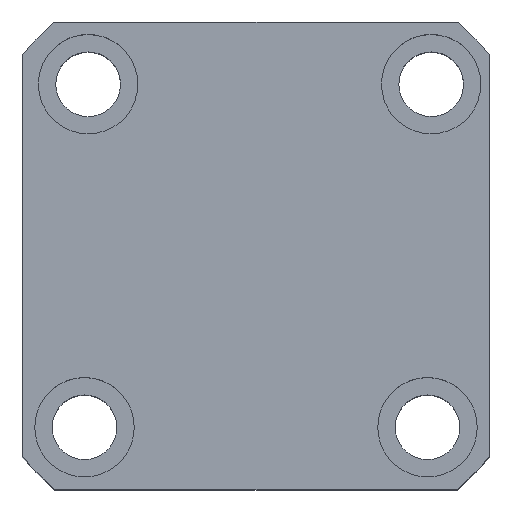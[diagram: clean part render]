
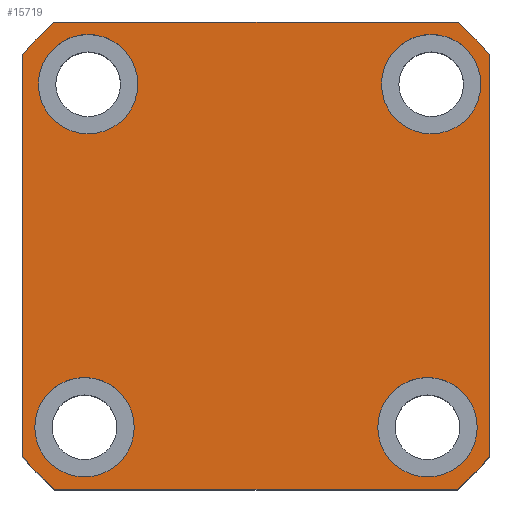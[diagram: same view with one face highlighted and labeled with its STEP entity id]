
A CAD part, top view. The second image highlights one B-rep face of the part: STEP entity #15719.
In plain terms, the highlighted planar face has unit normal (0, 0, 1) as drawn and (0, 0, -1) by its records, which use the part's own axes.
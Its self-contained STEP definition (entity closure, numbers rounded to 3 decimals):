
#298 = CARTESIAN_POINT ( 'NONE',  ( -47., -40.435, 0. ) ) ;
#340 = EDGE_LOOP ( 'NONE', ( #2322, #16772, #14639, #9186, #5658, #2081, #17066, #10344 ) ) ;
#350 = CARTESIAN_POINT ( 'NONE',  ( 0., 0., 0. ) ) ;
#432 = CARTESIAN_POINT ( 'NONE',  ( 24.5, 34.5, 0. ) ) ;
#761 = DIRECTION ( 'NONE',  ( 0., 0., -1. ) ) ;
#837 = AXIS2_PLACEMENT_3D ( 'NONE', #350, #12620, #2152 ) ;
#946 = ORIENTED_EDGE ( 'NONE', *, *, #18139, .F. ) ;
#1342 = CIRCLE ( 'NONE', #11586, 10. ) ;
#1396 = CARTESIAN_POINT ( 'NONE',  ( 47., -40.435, 0. ) ) ;
#1662 = EDGE_CURVE ( 'NONE', #4087, #3692, #7152, .T. ) ;
#1745 = EDGE_CURVE ( 'NONE', #19178, #3309, #15839, .T. ) ;
#1753 = DIRECTION ( 'NONE',  ( 0., -1., 0. ) ) ;
#1809 = CARTESIAN_POINT ( 'NONE',  ( -43.77, -34.5, 0. ) ) ;
#1882 = VERTEX_POINT ( 'NONE', #4508 ) ;
#2081 = ORIENTED_EDGE ( 'NONE', *, *, #6670, .F. ) ;
#2152 = DIRECTION ( 'NONE',  ( 1., 0., 0. ) ) ;
#2254 = CIRCLE ( 'NONE', #12190, 10. ) ;
#2322 = ORIENTED_EDGE ( 'NONE', *, *, #1745, .F. ) ;
#2380 = DIRECTION ( 'NONE',  ( 0., 0., 1. ) ) ;
#2474 = DIRECTION ( 'NONE',  ( -1., 0., 0. ) ) ;
#2562 = ORIENTED_EDGE ( 'NONE', *, *, #2769, .F. ) ;
#2629 = DIRECTION ( 'NONE',  ( 0., 0., -1. ) ) ;
#2671 = CARTESIAN_POINT ( 'NONE',  ( 47., 40.435, 0. ) ) ;
#2748 = CIRCLE ( 'NONE', #4982, 10. ) ;
#2769 = EDGE_CURVE ( 'NONE', #7556, #1882, #16094, .T. ) ;
#2773 = CARTESIAN_POINT ( 'NONE',  ( -33.77, -34.5, 0. ) ) ;
#2851 = AXIS2_PLACEMENT_3D ( 'NONE', #3049, #15236, #4806 ) ;
#3049 = CARTESIAN_POINT ( 'NONE',  ( -34.5, 34.5, 0. ) ) ;
#3086 = CARTESIAN_POINT ( 'NONE',  ( 47., 47., 0. ) ) ;
#3127 = VECTOR ( 'NONE', #15279, 1000. ) ;
#3309 = VERTEX_POINT ( 'NONE', #11559 ) ;
#3692 = VERTEX_POINT ( 'NONE', #12101 ) ;
#3714 = VERTEX_POINT ( 'NONE', #19106 ) ;
#3817 = VECTOR ( 'NONE', #18427, 1000. ) ;
#3938 = AXIS2_PLACEMENT_3D ( 'NONE', #4823, #16997, #6595 ) ;
#3944 = CIRCLE ( 'NONE', #2851, 10. ) ;
#4087 = VERTEX_POINT ( 'NONE', #298 ) ;
#4432 = EDGE_CURVE ( 'NONE', #9051, #20736, #1342, .T. ) ;
#4468 = FACE_BOUND ( 'NONE', #19419, .T. ) ;
#4485 = EDGE_LOOP ( 'NONE', ( #2562, #8847 ) ) ;
#4508 = CARTESIAN_POINT ( 'NONE',  ( -23.77, -34.5, 0. ) ) ;
#4806 = DIRECTION ( 'NONE',  ( -1., 0., 0. ) ) ;
#4823 = CARTESIAN_POINT ( 'NONE',  ( -33.77, -34.5, 0. ) ) ;
#4982 = AXIS2_PLACEMENT_3D ( 'NONE', #18142, #7761, #19849 ) ;
#5195 = PLANE ( 'NONE',  #9365 ) ;
#5468 = AXIS2_PLACEMENT_3D ( 'NONE', #2773, #2629, #2474 ) ;
#5653 = VERTEX_POINT ( 'NONE', #12258 ) ;
#5658 = ORIENTED_EDGE ( 'NONE', *, *, #1662, .F. ) ;
#6303 = CARTESIAN_POINT ( 'NONE',  ( 25.23, -34.5, 0. ) ) ;
#6316 = EDGE_CURVE ( 'NONE', #1882, #7556, #14744, .T. ) ;
#6595 = DIRECTION ( 'NONE',  ( -1., 0., 0. ) ) ;
#6670 = EDGE_CURVE ( 'NONE', #15695, #4087, #16077, .T. ) ;
#6957 = DIRECTION ( 'NONE',  ( 1., 0., 0. ) ) ;
#7134 = CIRCLE ( 'NONE', #13916, 10. ) ;
#7152 = CIRCLE ( 'NONE', #15665, 62. ) ;
#7556 = VERTEX_POINT ( 'NONE', #1809 ) ;
#7560 = DIRECTION ( 'NONE',  ( 1., 0., 0. ) ) ;
#7568 = DIRECTION ( 'NONE',  ( 0., 0., 1. ) ) ;
#7594 = CARTESIAN_POINT ( 'NONE',  ( 0., 0., 0. ) ) ;
#7674 = DIRECTION ( 'NONE',  ( 1., 0., 0. ) ) ;
#7677 = DIRECTION ( 'NONE',  ( 0., 0., 1. ) ) ;
#7701 = CARTESIAN_POINT ( 'NONE',  ( 0., 0., 0. ) ) ;
#7761 = DIRECTION ( 'NONE',  ( 0., 0., -1. ) ) ;
#7791 = EDGE_CURVE ( 'NONE', #12664, #14371, #2748, .T. ) ;
#8047 = ORIENTED_EDGE ( 'NONE', *, *, #22204, .F. ) ;
#8081 = CARTESIAN_POINT ( 'NONE',  ( 34.5, 34.5, 0. ) ) ;
#8474 = EDGE_CURVE ( 'NONE', #14371, #12664, #7134, .T. ) ;
#8535 = CARTESIAN_POINT ( 'NONE',  ( 35.23, -34.5, 0. ) ) ;
#8727 = CARTESIAN_POINT ( 'NONE',  ( -34.5, 34.5, 0. ) ) ;
#8847 = ORIENTED_EDGE ( 'NONE', *, *, #6316, .F. ) ;
#8855 = CARTESIAN_POINT ( 'NONE',  ( 45.23, -34.5, 0. ) ) ;
#8885 = ORIENTED_EDGE ( 'NONE', *, *, #4432, .F. ) ;
#8977 = CARTESIAN_POINT ( 'NONE',  ( -40.435, 47., 0. ) ) ;
#9051 = VERTEX_POINT ( 'NONE', #6303 ) ;
#9084 = EDGE_CURVE ( 'NONE', #3309, #19813, #13098, .T. ) ;
#9186 = ORIENTED_EDGE ( 'NONE', *, *, #17833, .F. ) ;
#9365 = AXIS2_PLACEMENT_3D ( 'NONE', #18982, #17370, #6957 ) ;
#9823 = DIRECTION ( 'NONE',  ( -1., 0., 0. ) ) ;
#9846 = CARTESIAN_POINT ( 'NONE',  ( -47., -47., 0. ) ) ;
#10293 = DIRECTION ( 'NONE',  ( -1., 0., 0. ) ) ;
#10344 = ORIENTED_EDGE ( 'NONE', *, *, #9084, .F. ) ;
#10484 = DIRECTION ( 'NONE',  ( -1., 0., 0. ) ) ;
#11258 = CARTESIAN_POINT ( 'NONE',  ( 35.23, -34.5, 0. ) ) ;
#11442 = VECTOR ( 'NONE', #1753, 1000. ) ;
#11534 = CARTESIAN_POINT ( 'NONE',  ( -47., 47., 0. ) ) ;
#11559 = CARTESIAN_POINT ( 'NONE',  ( 40.435, 47., 0. ) ) ;
#11584 = DIRECTION ( 'NONE',  ( 1., 0., 0. ) ) ;
#11586 = AXIS2_PLACEMENT_3D ( 'NONE', #11258, #761, #13020 ) ;
#12101 = CARTESIAN_POINT ( 'NONE',  ( -40.435, -47., 0. ) ) ;
#12190 = AXIS2_PLACEMENT_3D ( 'NONE', #8535, #20572, #10293 ) ;
#12258 = CARTESIAN_POINT ( 'NONE',  ( -44.5, 34.5, 0. ) ) ;
#12620 = DIRECTION ( 'NONE',  ( 0., 0., 1. ) ) ;
#12643 = LINE ( 'NONE', #9846, #21185 ) ;
#12664 = VERTEX_POINT ( 'NONE', #15859 ) ;
#12691 = CIRCLE ( 'NONE', #837, 62. ) ;
#12834 = CARTESIAN_POINT ( 'NONE',  ( 0., 0., 0. ) ) ;
#13020 = DIRECTION ( 'NONE',  ( -1., 0., 0. ) ) ;
#13091 = VERTEX_POINT ( 'NONE', #13184 ) ;
#13098 = LINE ( 'NONE', #11534, #3817 ) ;
#13184 = CARTESIAN_POINT ( 'NONE',  ( 40.435, -47., 0. ) ) ;
#13204 = FACE_OUTER_BOUND ( 'NONE', #340, .T. ) ;
#13223 = EDGE_LOOP ( 'NONE', ( #19685, #8047 ) ) ;
#13504 = ORIENTED_EDGE ( 'NONE', *, *, #8474, .F. ) ;
#13776 = EDGE_LOOP ( 'NONE', ( #13504, #19174 ) ) ;
#13777 = CIRCLE ( 'NONE', #15327, 10. ) ;
#13812 = CARTESIAN_POINT ( 'NONE',  ( -47., 40.435, 0. ) ) ;
#13916 = AXIS2_PLACEMENT_3D ( 'NONE', #8081, #20134, #9823 ) ;
#13992 = CARTESIAN_POINT ( 'NONE',  ( -47., 47., 0. ) ) ;
#14040 = EDGE_CURVE ( 'NONE', #5653, #3714, #13777, .T. ) ;
#14263 = EDGE_CURVE ( 'NONE', #13091, #19473, #12691, .T. ) ;
#14371 = VERTEX_POINT ( 'NONE', #432 ) ;
#14594 = DIRECTION ( 'NONE',  ( 1., 0., 0. ) ) ;
#14639 = ORIENTED_EDGE ( 'NONE', *, *, #14263, .F. ) ;
#14744 = CIRCLE ( 'NONE', #3938, 10. ) ;
#15236 = DIRECTION ( 'NONE',  ( 0., 0., -1. ) ) ;
#15279 = DIRECTION ( 'NONE',  ( 0., 1., 0. ) ) ;
#15327 = AXIS2_PLACEMENT_3D ( 'NONE', #8727, #20766, #10484 ) ;
#15665 = AXIS2_PLACEMENT_3D ( 'NONE', #7701, #7677, #7674 ) ;
#15695 = VERTEX_POINT ( 'NONE', #13812 ) ;
#15719 = ADVANCED_FACE ( 'NONE', ( #4468, #18333, #22254, #17817, #13204 ), #5195, .F. ) ;
#15839 = CIRCLE ( 'NONE', #19101, 62. ) ;
#15859 = CARTESIAN_POINT ( 'NONE',  ( 44.5, 34.5, 0. ) ) ;
#16077 = LINE ( 'NONE', #13992, #11442 ) ;
#16094 = CIRCLE ( 'NONE', #5468, 10. ) ;
#16772 = ORIENTED_EDGE ( 'NONE', *, *, #21712, .F. ) ;
#16997 = DIRECTION ( 'NONE',  ( 0., 0., -1. ) ) ;
#17066 = ORIENTED_EDGE ( 'NONE', *, *, #17607, .F. ) ;
#17267 = AXIS2_PLACEMENT_3D ( 'NONE', #12834, #2380, #14594 ) ;
#17370 = DIRECTION ( 'NONE',  ( 0., 0., 1. ) ) ;
#17607 = EDGE_CURVE ( 'NONE', #19813, #15695, #22230, .T. ) ;
#17817 = FACE_BOUND ( 'NONE', #13776, .T. ) ;
#17833 = EDGE_CURVE ( 'NONE', #3692, #13091, #12643, .T. ) ;
#18139 = EDGE_CURVE ( 'NONE', #20736, #9051, #2254, .T. ) ;
#18142 = CARTESIAN_POINT ( 'NONE',  ( 34.5, 34.5, 0. ) ) ;
#18333 = FACE_BOUND ( 'NONE', #4485, .T. ) ;
#18427 = DIRECTION ( 'NONE',  ( -1., 0., 0. ) ) ;
#18982 = CARTESIAN_POINT ( 'NONE',  ( 0., 0., 0. ) ) ;
#19101 = AXIS2_PLACEMENT_3D ( 'NONE', #7594, #7568, #7560 ) ;
#19106 = CARTESIAN_POINT ( 'NONE',  ( -24.5, 34.5, 0. ) ) ;
#19174 = ORIENTED_EDGE ( 'NONE', *, *, #7791, .F. ) ;
#19178 = VERTEX_POINT ( 'NONE', #2671 ) ;
#19419 = EDGE_LOOP ( 'NONE', ( #8885, #946 ) ) ;
#19473 = VERTEX_POINT ( 'NONE', #1396 ) ;
#19685 = ORIENTED_EDGE ( 'NONE', *, *, #14040, .F. ) ;
#19813 = VERTEX_POINT ( 'NONE', #8977 ) ;
#19849 = DIRECTION ( 'NONE',  ( -1., 0., 0. ) ) ;
#20134 = DIRECTION ( 'NONE',  ( 0., 0., -1. ) ) ;
#20432 = LINE ( 'NONE', #3086, #3127 ) ;
#20572 = DIRECTION ( 'NONE',  ( 0., 0., -1. ) ) ;
#20736 = VERTEX_POINT ( 'NONE', #8855 ) ;
#20766 = DIRECTION ( 'NONE',  ( 0., 0., -1. ) ) ;
#21185 = VECTOR ( 'NONE', #11584, 1000. ) ;
#21712 = EDGE_CURVE ( 'NONE', #19473, #19178, #20432, .T. ) ;
#22204 = EDGE_CURVE ( 'NONE', #3714, #5653, #3944, .T. ) ;
#22230 = CIRCLE ( 'NONE', #17267, 62. ) ;
#22254 = FACE_BOUND ( 'NONE', #13223, .T. ) ;
